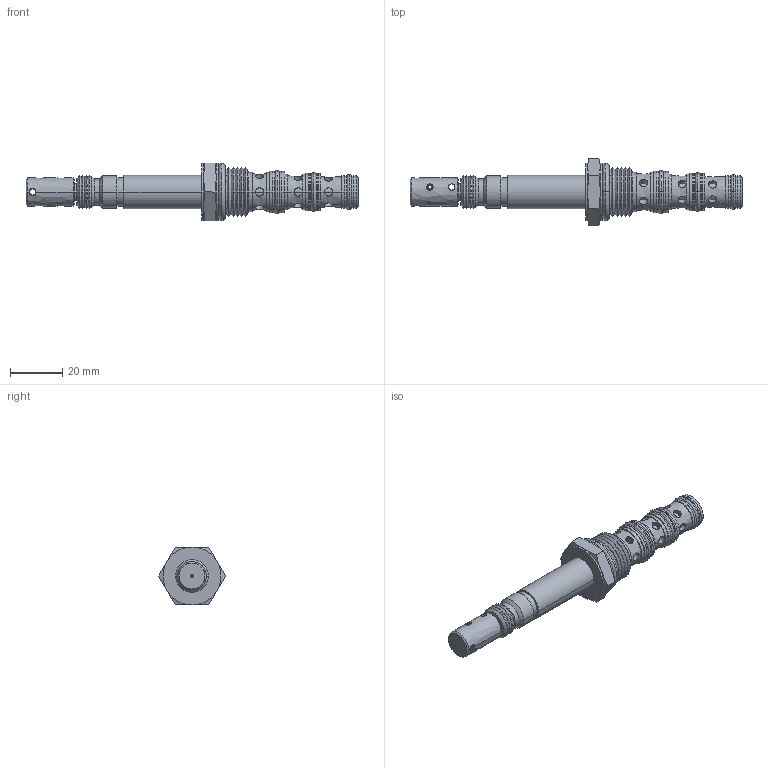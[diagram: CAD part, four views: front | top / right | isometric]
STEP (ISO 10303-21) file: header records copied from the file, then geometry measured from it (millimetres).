
FILE_DESCRIPTION((''),'2;1');
FILE_NAME('U:\Solid model CD\Solid model full\Solenoid\STEP\PQS4B0M-3D Full.stp','2008-06-23T11:39:38',('Dan'),(''),'Autodesk Inventor 9','Autodesk Inventor 9','');
FILE_SCHEMA(('AUTOMOTIVE_DESIGN { 1 0 10303 214 1 1 1 1 }'));
Length unit declared in the file: inch
Products named in the file (13): PQS4B0M-3D Full; PQS4B0M-3D Full1; PQS4B0M-3D Full2; PQS4B0M-3D Full3; PQS4B0M-3D Full4; PQS4B0M-3D Full5; PQS4B0M-3D Full6; PQS4B0M-3D Full7; PQS4B0M-3D Full8; PQS4B0M-3D Full9; PQS4B0M-3D Full10; PQS4B0M-3D Full11; PQS4B0M-3D Full12
Assembly tree (12 placements, depth 2):
  PQS4B0M-3D Full
    PQS4B0M-3D Full1
    PQS4B0M-3D Full2
    PQS4B0M-3D Full3
    PQS4B0M-3D Full4
    PQS4B0M-3D Full5
    PQS4B0M-3D Full6
    PQS4B0M-3D Full7
    PQS4B0M-3D Full8
    PQS4B0M-3D Full9
    PQS4B0M-3D Full10
    PQS4B0M-3D Full11
    PQS4B0M-3D Full12
Bounding box: 127.23 x 25.66 x 22.23 mm (x, y, z)
Volume: 18505.6 mm3; surface area: 10438.2 mm2
Topology: 12 solids, 12 shells, 384 faces, 848 edges, 514 vertices
Faces by surface type: bspline 341, cylinder 32, cone 6, plane 5
Entity records: 16768 total; most frequent: CARTESIAN_POINT 9290, ORIENTED_EDGE 1696, DIRECTION 1188, EDGE_CURVE 848, VERTEX_POINT 514, AXIS2_PLACEMENT_3D 448, EDGE_LOOP 438, FACE_OUTER_BOUND 384
